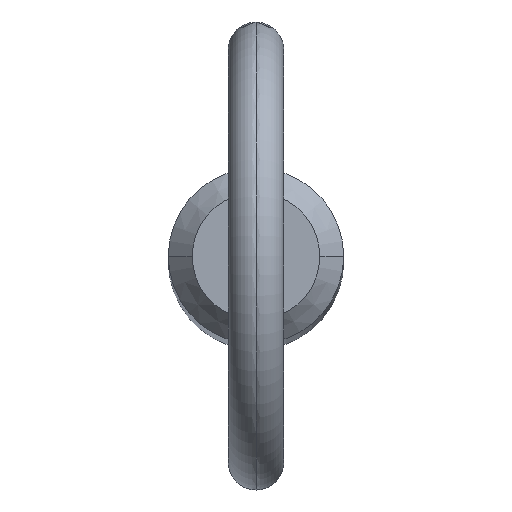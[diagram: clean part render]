
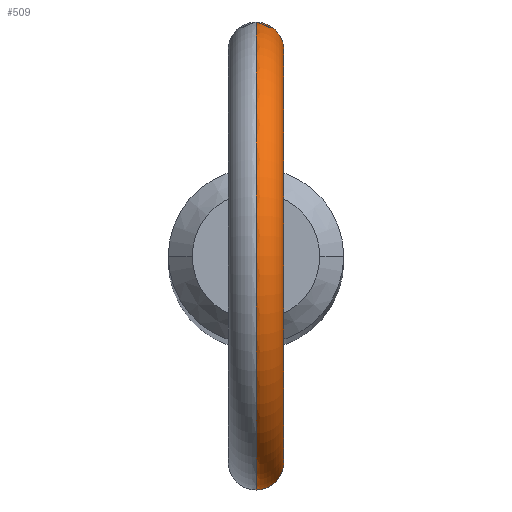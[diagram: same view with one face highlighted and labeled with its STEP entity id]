
A CAD part, top view. The second image highlights one B-rep face of the part: STEP entity #509.
In plain terms, the highlighted toroidal (fillet/blend) face has major radius 11.2 mm and minor radius 1.5 mm.
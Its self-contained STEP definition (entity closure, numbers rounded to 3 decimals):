
#13 = B_SPLINE_CURVE_WITH_KNOTS ( 'NONE', 3,
 ( #179, #259, #465, #379, #507, #499, #142, #303, #182, #461, #220, #421, #513, #467, #111, #390, #473, #274, #118, #317, #277, #152, #475, #77 ),
 .UNSPECIFIED., .F., .F.,
 ( 4, 2, 2, 2, 2, 2, 2, 2, 2, 2, 2, 4 ),
 ( 0.001, 0.001, 0.001, 0.002, 0.002, 0.002, 0.003, 0.004, 0.004, 0.005, 0.005, 0.006 ),
 .UNSPECIFIED. ) ;
#17 = CARTESIAN_POINT ( 'NONE',  ( 1.473, -4.526, 154.531 ) ) ;
#22 = CARTESIAN_POINT ( 'NONE',  ( 1.293, -4.582, 155.742 ) ) ;
#57 = CARTESIAN_POINT ( 'NONE',  ( 0., -4.76, 153.326 ) ) ;
#62 = DIRECTION ( 'NONE',  ( 1., 0., 0. ) ) ;
#66 = ORIENTED_EDGE ( 'NONE', *, *, #287, .F. ) ;
#77 = CARTESIAN_POINT ( 'NONE',  ( 0., 4.76, 156.648 ) ) ;
#79 = CARTESIAN_POINT ( 'NONE',  ( 0., 0., 165.1 ) ) ;
#83 = EDGE_LOOP ( 'NONE', ( #66, #399, #164, #329 ) ) ;
#85 = CARTESIAN_POINT ( 'NONE',  ( 0., 0., 165.1 ) ) ;
#99 = CARTESIAN_POINT ( 'NONE',  ( 0.797, -4.697, 153.529 ) ) ;
#100 = CARTESIAN_POINT ( 'NONE',  ( 1.19, -4.611, 155.924 ) ) ;
#105 = CARTESIAN_POINT ( 'NONE',  ( 1.344, -4.567, 154.139 ) ) ;
#111 = CARTESIAN_POINT ( 'NONE',  ( 1.441, 4.537, 155.359 ) ) ;
#112 = EDGE_CURVE ( 'NONE', #344, #242, #434, .T. ) ;
#115 = CARTESIAN_POINT ( 'NONE',  ( 0., 4.76, 156.648 ) ) ;
#116 = TOROIDAL_SURFACE ( 'NONE', #292, 11.2, 1.5 ) ;
#118 = CARTESIAN_POINT ( 'NONE',  ( 0.925, 4.67, 156.24 ) ) ;
#134 = CARTESIAN_POINT ( 'NONE',  ( 0., -4.76, 153.326 ) ) ;
#137 = CARTESIAN_POINT ( 'NONE',  ( 1.503, -4.517, 154.84 ) ) ;
#142 = CARTESIAN_POINT ( 'NONE',  ( 0.968, 4.663, 153.649 ) ) ;
#143 = B_SPLINE_CURVE_WITH_KNOTS ( 'NONE', 3,
 ( #464, #181, #511, #514, #517, #266, #272, #258, #468, #100, #22, #380, #423, #304, #308, #137, #345, #17, #144, #300, #105, #381, #376, #185, #99, #466, #219, #416, #269, #134 ),
 .UNSPECIFIED., .F., .F.,
 ( 4, 2, 2, 2, 2, 2, 2, 2, 2, 2, 2, 2, 2, 2, 4 ),
 ( 0.004, 0.005, 0.005, 0.005, 0.006, 0.006, 0.007, 0.007, 0.007, 0.007, 0.008, 0.008, 0.009, 0.009, 0.009 ),
 .UNSPECIFIED. ) ;
#144 = CARTESIAN_POINT ( 'NONE',  ( 1.45, -4.534, 154.428 ) ) ;
#152 = CARTESIAN_POINT ( 'NONE',  ( 0.415, 4.745, 156.588 ) ) ;
#164 = ORIENTED_EDGE ( 'NONE', *, *, #363, .F. ) ;
#168 = AXIS2_PLACEMENT_3D ( 'NONE', #174, #62, #367 ) ;
#174 = CARTESIAN_POINT ( 'NONE',  ( 0., 0., 165.1 ) ) ;
#179 = CARTESIAN_POINT ( 'NONE',  ( 0., 4.76, 153.326 ) ) ;
#181 = CARTESIAN_POINT ( 'NONE',  ( 0.104, -4.76, 156.648 ) ) ;
#182 = CARTESIAN_POINT ( 'NONE',  ( 1.239, 4.596, 153.959 ) ) ;
#185 = CARTESIAN_POINT ( 'NONE',  ( 0.97, -4.662, 153.65 ) ) ;
#188 = CARTESIAN_POINT ( 'NONE',  ( 0., -4.76, 156.648 ) ) ;
#219 = CARTESIAN_POINT ( 'NONE',  ( 0.411, -4.743, 153.377 ) ) ;
#220 = CARTESIAN_POINT ( 'NONE',  ( 1.385, 4.554, 154.23 ) ) ;
#224 = CARTESIAN_POINT ( 'NONE',  ( 0., 4.76, 153.326 ) ) ;
#237 = DIRECTION ( 'NONE',  ( 0., 0., -1. ) ) ;
#238 = CIRCLE ( 'NONE', #413, 9.7 ) ;
#242 = VERTEX_POINT ( 'NONE', #57 ) ;
#258 = CARTESIAN_POINT ( 'NONE',  ( 0.925, -4.67, 156.239 ) ) ;
#259 = CARTESIAN_POINT ( 'NONE',  ( 0.104, 4.76, 153.326 ) ) ;
#266 = CARTESIAN_POINT ( 'NONE',  ( 0.687, -4.711, 156.435 ) ) ;
#269 = CARTESIAN_POINT ( 'NONE',  ( 0.105, -4.76, 153.326 ) ) ;
#272 = CARTESIAN_POINT ( 'NONE',  ( 0.77, -4.698, 156.375 ) ) ;
#274 = CARTESIAN_POINT ( 'NONE',  ( 0.996, 4.655, 156.166 ) ) ;
#277 = CARTESIAN_POINT ( 'NONE',  ( 0.685, 4.711, 156.436 ) ) ;
#287 = EDGE_CURVE ( 'NONE', #344, #328, #13, .T. ) ;
#292 = AXIS2_PLACEMENT_3D ( 'NONE', #85, #359, #353 ) ;
#300 = CARTESIAN_POINT ( 'NONE',  ( 1.385, -4.554, 154.232 ) ) ;
#303 = CARTESIAN_POINT ( 'NONE',  ( 1.177, 4.613, 153.875 ) ) ;
#304 = CARTESIAN_POINT ( 'NONE',  ( 1.478, -4.525, 155.152 ) ) ;
#308 = CARTESIAN_POINT ( 'NONE',  ( 1.492, -4.52, 155.048 ) ) ;
#317 = CARTESIAN_POINT ( 'NONE',  ( 0.771, 4.698, 156.375 ) ) ;
#324 = EDGE_CURVE ( 'NONE', #328, #362, #238, .T. ) ;
#328 = VERTEX_POINT ( 'NONE', #115 ) ;
#329 = ORIENTED_EDGE ( 'NONE', *, *, #324, .F. ) ;
#344 = VERTEX_POINT ( 'NONE', #224 ) ;
#345 = CARTESIAN_POINT ( 'NONE',  ( 1.499, -4.518, 154.737 ) ) ;
#353 = DIRECTION ( 'NONE',  ( 0., 0., -1. ) ) ;
#359 = DIRECTION ( 'NONE',  ( 1., 0., 0. ) ) ;
#362 = VERTEX_POINT ( 'NONE', #188 ) ;
#363 = EDGE_CURVE ( 'NONE', #362, #242, #143, .T. ) ;
#367 = DIRECTION ( 'NONE',  ( 0., 0., -1. ) ) ;
#376 = CARTESIAN_POINT ( 'NONE',  ( 1.178, -4.613, 153.876 ) ) ;
#379 = CARTESIAN_POINT ( 'NONE',  ( 0.411, 4.743, 153.377 ) ) ;
#380 = CARTESIAN_POINT ( 'NONE',  ( 1.404, -4.548, 155.453 ) ) ;
#381 = CARTESIAN_POINT ( 'NONE',  ( 1.24, -4.596, 153.96 ) ) ;
#390 = CARTESIAN_POINT ( 'NONE',  ( 1.292, 4.582, 155.744 ) ) ;
#399 = ORIENTED_EDGE ( 'NONE', *, *, #112, .T. ) ;
#413 = AXIS2_PLACEMENT_3D ( 'NONE', #79, #525, #237 ) ;
#416 = CARTESIAN_POINT ( 'NONE',  ( 0.208, -4.757, 153.336 ) ) ;
#421 = CARTESIAN_POINT ( 'NONE',  ( 1.484, 4.523, 154.528 ) ) ;
#423 = CARTESIAN_POINT ( 'NONE',  ( 1.434, -4.539, 155.354 ) ) ;
#434 = CIRCLE ( 'NONE', #168, 12.7 ) ;
#461 = CARTESIAN_POINT ( 'NONE',  ( 1.343, 4.567, 154.137 ) ) ;
#464 = CARTESIAN_POINT ( 'NONE',  ( 0., -4.76, 156.648 ) ) ;
#465 = CARTESIAN_POINT ( 'NONE',  ( 0.207, 4.757, 153.336 ) ) ;
#466 = CARTESIAN_POINT ( 'NONE',  ( 0.512, -4.733, 153.408 ) ) ;
#467 = CARTESIAN_POINT ( 'NONE',  ( 1.487, 4.522, 155.153 ) ) ;
#468 = CARTESIAN_POINT ( 'NONE',  ( 0.997, -4.655, 156.164 ) ) ;
#473 = CARTESIAN_POINT ( 'NONE',  ( 1.188, 4.611, 155.927 ) ) ;
#475 = CARTESIAN_POINT ( 'NONE',  ( 0.208, 4.76, 156.648 ) ) ;
#482 = FACE_OUTER_BOUND ( 'NONE', #83, .T. ) ;
#499 = CARTESIAN_POINT ( 'NONE',  ( 0.795, 4.697, 153.528 ) ) ;
#507 = CARTESIAN_POINT ( 'NONE',  ( 0.511, 4.733, 153.408 ) ) ;
#509 = ADVANCED_FACE ( 'NONE', ( #482 ), #116, .T. ) ;
#511 = CARTESIAN_POINT ( 'NONE',  ( 0.209, -4.756, 156.634 ) ) ;
#513 = CARTESIAN_POINT ( 'NONE',  ( 1.508, 4.515, 154.737 ) ) ;
#514 = CARTESIAN_POINT ( 'NONE',  ( 0.409, -4.743, 156.578 ) ) ;
#517 = CARTESIAN_POINT ( 'NONE',  ( 0.506, -4.734, 156.537 ) ) ;
#525 = DIRECTION ( 'NONE',  ( 1., 0., 0. ) ) ;
